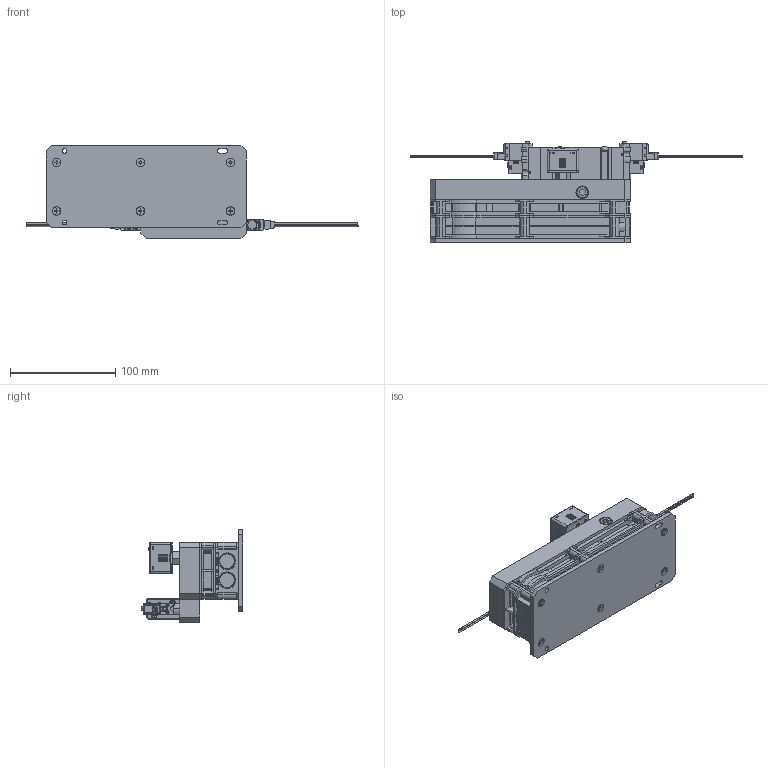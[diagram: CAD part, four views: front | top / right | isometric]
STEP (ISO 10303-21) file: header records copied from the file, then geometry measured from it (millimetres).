
FILE_DESCRIPTION(('STEP AP203'),'1');
FILE_NAME('BCVZ-1,2-SZG-V_3D.stp','2024-08-30T09:14:25',(' '),(' '),'Spatial InterOp 3D',' ',' ');
FILE_SCHEMA(('CONFIG_CONTROL_DESIGN'));
Length unit declared in the file: millimetre
Products named in the file (22): NAUO3; NAUO7; NAUO8; NAUO9; BCVZ-1,2-V 밸브; NAUO6; NAUO4; NAUO5; PG2_____; NONE; 볼트; BCVZ-1,2-SZG-V; BCVZ-B_base; CVZ-U1_unit; CZS-U2_unit; MPS-V60DL-R1-J-S1; BCVZ-1,2-V-S 공급베이스
Assembly tree (25 placements, depth 4):
  BCVZ-1,2-SZG-V
    BCVZ-1,2-V 밸브
      NAUO3  x2
        NAUO7
        NAUO8
        NAUO9
      NAUO6
      NAUO4
      NAUO5  x2
      PG2_____
        NONE  x2
        NONE
      볼트
      볼트
      PG2_____
        NONE  x2
        NONE
    BCVZ-B_base
    CVZ-U1_unit
    CZS-U2_unit
    MPS-V60DL-R1-J-S1
    BCVZ-1,2-V-S 공급베이스
Bounding box: 315.2 x 96.7 x 88 mm (x, y, z)
Volume: 639196.1 mm3; surface area: 171421.1 mm2
Topology: 23 solids, 25 shells, 2370 faces, 6454 edges, 4251 vertices
Faces by surface type: plane 1651, cylinder 626, torus 48, cone 43, bspline 2
Full cylindrical faces by diameter (mm): 1 x1, 2.459 x2, 3.3 x2, 4 x2, 4.134 x1, 4.5 x2, 6.7 x2, 8 x9, 8.647 x1, 11.676 x1, 12 x2
Entity records: 63414 total; most frequent: CARTESIAN_POINT 11722, ORIENTED_EDGE 10626, DIRECTION 10369, EDGE_CURVE 5313, LINE 3985, VECTOR 3985, VERTEX_POINT 3542, AXIS2_PLACEMENT_3D 3192
